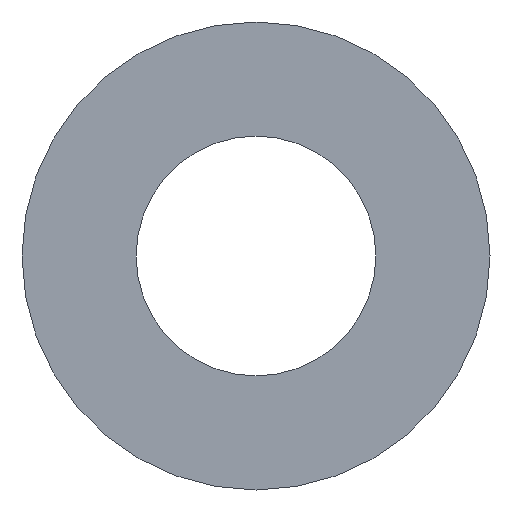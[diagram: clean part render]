
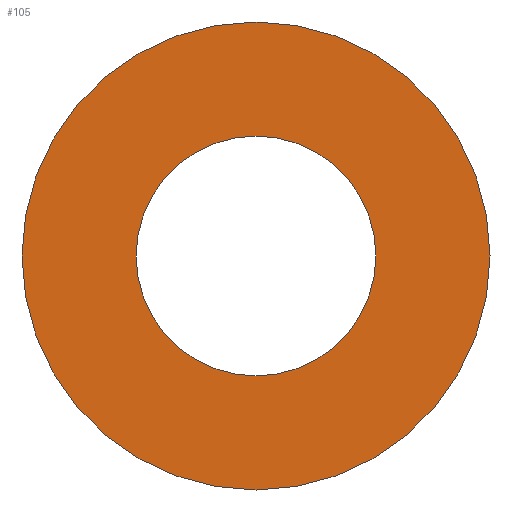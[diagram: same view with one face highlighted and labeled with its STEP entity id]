
A CAD part, left-side view. The second image highlights one B-rep face of the part: STEP entity #105.
In plain terms, the highlighted planar face has unit normal (-1, 0, 0).
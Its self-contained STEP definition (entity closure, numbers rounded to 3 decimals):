
#22 = VERTEX_POINT('',#23);
#23 = CARTESIAN_POINT('',(39.,12.3,2.7));
#32 = CYLINDRICAL_SURFACE('',#33,2.);
#33 = AXIS2_PLACEMENT_3D('',#34,#35,#36);
#34 = CARTESIAN_POINT('',(39.,12.3,4.7));
#35 = DIRECTION('',(-1.,-0.,0.));
#36 = DIRECTION('',(0.,0.,-1.));
#79 = EDGE_CURVE('',#22,#22,#80,.T.);
#80 = SURFACE_CURVE('',#81,(#86,#93),.PCURVE_S1.);
#81 = CIRCLE('',#82,2.);
#82 = AXIS2_PLACEMENT_3D('',#83,#84,#85);
#83 = CARTESIAN_POINT('',(39.,12.3,4.7));
#84 = DIRECTION('',(1.,-0.,0.));
#85 = DIRECTION('',(0.,0.,-1.));
#86 = PCURVE('',#32,#87);
#87 = DEFINITIONAL_REPRESENTATION('',(#88),#92);
#88 = LINE('',#89,#90);
#89 = CARTESIAN_POINT('',(-0.,0.));
#90 = VECTOR('',#91,1.);
#91 = DIRECTION('',(-1.,0.));
#92 = ( GEOMETRIC_REPRESENTATION_CONTEXT(2) 
PARAMETRIC_REPRESENTATION_CONTEXT() REPRESENTATION_CONTEXT('2D SPACE',''
  ) );
#93 = PCURVE('',#94,#99);
#94 = PLANE('',#95);
#95 = AXIS2_PLACEMENT_3D('',#96,#97,#98);
#96 = CARTESIAN_POINT('',(39.,12.3,4.7));
#97 = DIRECTION('',(1.,0.,0.));
#98 = DIRECTION('',(0.,0.,-1.));
#99 = DEFINITIONAL_REPRESENTATION('',(#100),#104);
#100 = CIRCLE('',#101,2.);
#101 = AXIS2_PLACEMENT_2D('',#102,#103);
#102 = CARTESIAN_POINT('',(0.,0.));
#103 = DIRECTION('',(1.,0.));
#104 = ( GEOMETRIC_REPRESENTATION_CONTEXT(2) 
PARAMETRIC_REPRESENTATION_CONTEXT() REPRESENTATION_CONTEXT('2D SPACE',''
  ) );
#105 = ADVANCED_FACE('',(#106,#109),#94,.F.);
#106 = FACE_BOUND('',#107,.F.);
#107 = EDGE_LOOP('',(#108));
#108 = ORIENTED_EDGE('',*,*,#79,.T.);
#109 = FACE_BOUND('',#110,.F.);
#110 = EDGE_LOOP('',(#111));
#111 = ORIENTED_EDGE('',*,*,#112,.T.);
#112 = EDGE_CURVE('',#113,#113,#115,.T.);
#113 = VERTEX_POINT('',#114);
#114 = CARTESIAN_POINT('',(39.,12.3,3.675));
#115 = SURFACE_CURVE('',#116,(#121,#132),.PCURVE_S1.);
#116 = CIRCLE('',#117,1.025);
#117 = AXIS2_PLACEMENT_3D('',#118,#119,#120);
#118 = CARTESIAN_POINT('',(39.,12.3,4.7));
#119 = DIRECTION('',(-1.,-0.,0.));
#120 = DIRECTION('',(0.,0.,-1.));
#121 = PCURVE('',#94,#122);
#122 = DEFINITIONAL_REPRESENTATION('',(#123),#131);
#123 = ( BOUNDED_CURVE() B_SPLINE_CURVE(2,(#124,#125,#126,#127,#128,#129
,#130),.UNSPECIFIED.,.T.,.F.) B_SPLINE_CURVE_WITH_KNOTS((1,2,2,2,2,1),(
    -2.094,0.,2.094,4.189,6.283,
8.378),.UNSPECIFIED.) CURVE() GEOMETRIC_REPRESENTATION_ITEM() 
RATIONAL_B_SPLINE_CURVE((1.,0.5,1.,0.5,1.,0.5,1.)) REPRESENTATION_ITEM(
  '') );
#124 = CARTESIAN_POINT('',(1.025,0.));
#125 = CARTESIAN_POINT('',(1.025,-1.775));
#126 = CARTESIAN_POINT('',(-0.513,-0.888));
#127 = CARTESIAN_POINT('',(-2.05,0.));
#128 = CARTESIAN_POINT('',(-0.513,0.888));
#129 = CARTESIAN_POINT('',(1.025,1.775));
#130 = CARTESIAN_POINT('',(1.025,0.));
#131 = ( GEOMETRIC_REPRESENTATION_CONTEXT(2) 
PARAMETRIC_REPRESENTATION_CONTEXT() REPRESENTATION_CONTEXT('2D SPACE',''
  ) );
#132 = PCURVE('',#133,#138);
#133 = CYLINDRICAL_SURFACE('',#134,1.025);
#134 = AXIS2_PLACEMENT_3D('',#135,#136,#137);
#135 = CARTESIAN_POINT('',(38.9,12.3,4.7));
#136 = DIRECTION('',(-1.,-0.,0.));
#137 = DIRECTION('',(0.,0.,-1.));
#138 = DEFINITIONAL_REPRESENTATION('',(#139),#143);
#139 = LINE('',#140,#141);
#140 = CARTESIAN_POINT('',(-6.283,-0.1));
#141 = VECTOR('',#142,1.);
#142 = DIRECTION('',(1.,-0.));
#143 = ( GEOMETRIC_REPRESENTATION_CONTEXT(2) 
PARAMETRIC_REPRESENTATION_CONTEXT() REPRESENTATION_CONTEXT('2D SPACE',''
  ) );
